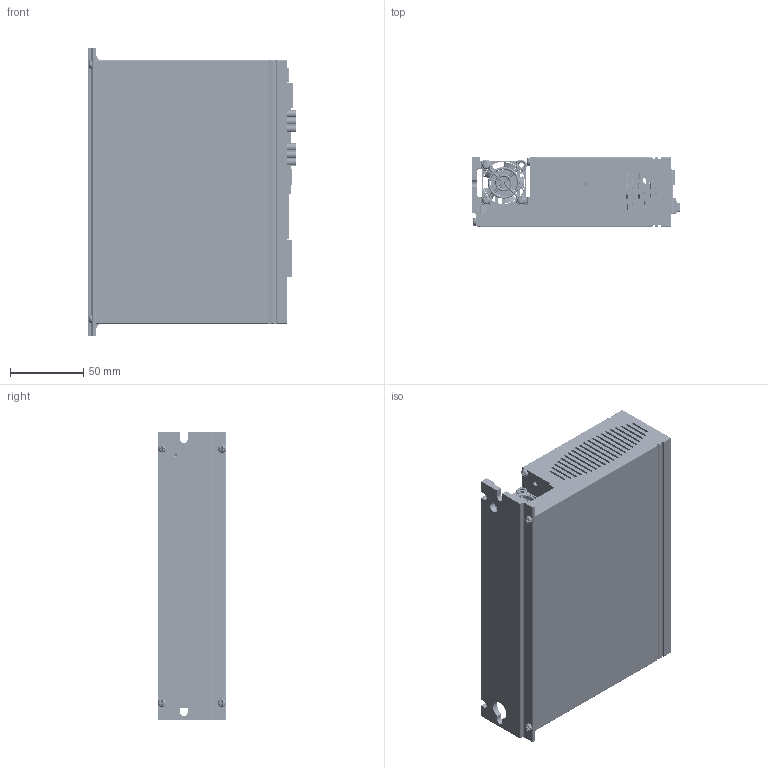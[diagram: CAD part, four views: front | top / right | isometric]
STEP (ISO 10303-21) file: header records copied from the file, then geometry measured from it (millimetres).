
FILE_DESCRIPTION((''),'2;1');
FILE_NAME('SW5_ISD00_ASM','2020-07-29T10:32:38',('Matteo Maccalli'),(''),'CREO PARAMETRIC BY PTC INC, 2019344','CREO PARAMETRIC BY PTC INC, 2019344','');
FILE_SCHEMA(('AUTOMOTIVE_DESIGN { 1 0 10303 214 1 1 1 1 }'));
Products named in the file (212): ISD00_DISSIPATORE-03; AD_00883-03_ISD00; SCATOLA_SW5_D-04; ACC_2E9X9E5; FAN-HOUSE-30X30X10-PROMOCO_FAN-; FAN-30X30X10-PROMOCO_FAN-KDE050; GRIGLIA_30X30; ACC_2E9X19; ISD00_EARTH_FIX-01; AD_01053_ISD00_BLK; BOARD-185; CPP_4X13X9_P10_1_2; CY204_1_ASM; CPP_4X13X9_P10; CY203_1_ASM; CY202_1_ASM; 79202-X02LF; JMP500_ASM; CE_35X30_P10; CE202_ASM; BOARD-38953; USER_LIBRARY-TSSOP-16-1_1_2; IC402_ASM; USER_LIBRARY-ARRAY-1206-4-58410; USER_LIBRARY-ARRAY-1206-4-68119; USER_LIBRARY-ARRAY-1206-4-70352; USER_LIBRARY-ARRAY-1206-4-76785; USER_LIBRARY-ARRAY-1206-4-58388_ASM; RN403_ASM; RN402_ASM; RN401_ASM; RN105_ASM; RN104_ASM; USER_LIBRARY-RES0603-1_1_2; R405_ASM; USER_LIBRARY-TSSOP-16-1; IC401_ASM; IC100_ASM; SW3DPS-0603_SMD_CAPACITOR_1_2; C401_ASM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
Assembly tree (243 placements, depth 8):
  SW5_ISD00_ASM
    ISD00_DISSIPATORE-03
    AD_00883-03_ISD00
    SCATOLA_SW5_D-04
    ACC_2E9X9E5  x4
    FAN-HOUSE-30X30X10-PROMOCO_FAN-
    FAN-30X30X10-PROMOCO_FAN-KDE050
    GRIGLIA_30X30
    ACC_2E9X19  x3
    ISD00_EARTH_FIX-01
    AD_01053_ISD00_BLK
    ASM0001_ASM
      PCB_ASM
        BOARD-185
        CY204_1_ASM
          CPP_4X13X9_P10_1_2
        CY203_1_ASM
          CPP_4X13X9_P10
        CY202_1_ASM
          CPP_4X13X9_P10
        JMP500_ASM
          79202-X02LF  x2
        CE202_ASM
          CE_35X30_P10
        VIS400-38854_ASM
          ISD00VIS-02_ASM
            BOARD-38953
            IC402_ASM
              USER_LIBRARY-TSSOP-16-1_1_2
            RN403_ASM
              USER_LIBRARY-ARRAY-1206-4-58388_ASM
                USER_LIBRARY-ARRAY-1206-4-58410
                USER_LIBRARY-ARRAY-1206-4-68119
                USER_LIBRARY-ARRAY-1206-4-70352
                USER_LIBRARY-ARRAY-1206-4-76785
            RN402_ASM
              USER_LIBRARY-ARRAY-1206-4-58388_ASM
                USER_LIBRARY-ARRAY-1206-4-58410
                USER_LIBRARY-ARRAY-1206-4-68119
                USER_LIBRARY-ARRAY-1206-4-70352
                USER_LIBRARY-ARRAY-1206-4-76785
            RN401_ASM
              USER_LIBRARY-ARRAY-1206-4-58388_ASM
                USER_LIBRARY-ARRAY-1206-4-58410
                USER_LIBRARY-ARRAY-1206-4-68119
                USER_LIBRARY-ARRAY-1206-4-70352
                USER_LIBRARY-ARRAY-1206-4-76785
            RN105_ASM
              USER_LIBRARY-ARRAY-1206-4-58388_ASM
                USER_LIBRARY-ARRAY-1206-4-58410
                USER_LIBRARY-ARRAY-1206-4-68119
                USER_LIBRARY-ARRAY-1206-4-70352
                USER_LIBRARY-ARRAY-1206-4-76785
            RN104_ASM
              USER_LIBRARY-ARRAY-1206-4-58388_ASM
                USER_LIBRARY-ARRAY-1206-4-58410
                USER_LIBRARY-ARRAY-1206-4-68119
                USER_LIBRARY-ARRAY-1206-4-70352
                USER_LIBRARY-ARRAY-1206-4-76785
            R405_ASM
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Bounding box: 142.78 x 47 x 196.6 mm (x, y, z)
Volume: 471117.1 mm3; surface area: 370123.5 mm2
Topology: 166 solids, 173 shells, 17506 faces, 48222 edges, 31348 vertices
Faces by surface type: plane 11694, cylinder 3938, extrusion 896, cone 531, bspline 212, sphere 126, torus 109
Entity records: 649473 total; most frequent: CARTESIAN_POINT 116948, ORIENTED_EDGE 78026, DIRECTION 69195, PRESENTATION_STYLE_ASSIGNMENT 43291, EDGE_CURVE 39027, STYLED_ITEM 35461, CURVE_STYLE 34979, VECTOR 28731
